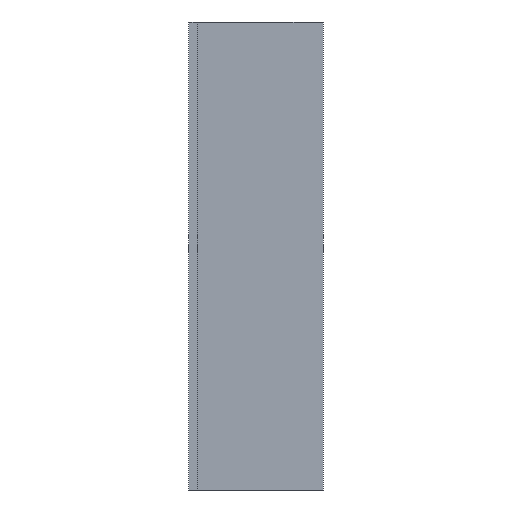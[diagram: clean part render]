
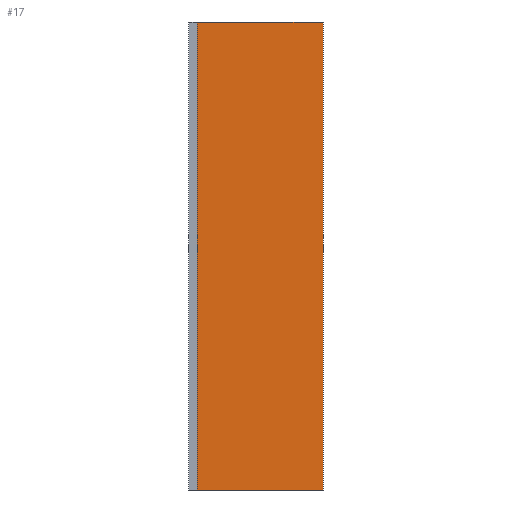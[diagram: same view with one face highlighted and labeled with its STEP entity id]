
A CAD part, left-side view. The second image highlights one B-rep face of the part: STEP entity #17.
In plain terms, the highlighted planar face has unit normal (-1, 0, 0).
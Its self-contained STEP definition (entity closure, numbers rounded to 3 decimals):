
#17 = ADVANCED_FACE('',(#18),#32,.F.);
#18 = FACE_BOUND('',#19,.F.);
#19 = EDGE_LOOP('',(#20,#55,#83,#111));
#20 = ORIENTED_EDGE('',*,*,#21,.F.);
#21 = EDGE_CURVE('',#22,#24,#26,.T.);
#22 = VERTEX_POINT('',#23);
#23 = CARTESIAN_POINT('',(70.4,2.8,86.));
#24 = VERTEX_POINT('',#25);
#25 = CARTESIAN_POINT('',(70.4,2.8,196.));
#26 = SURFACE_CURVE('',#27,(#31,#43),.PCURVE_S1.);
#27 = LINE('',#28,#29);
#28 = CARTESIAN_POINT('',(70.4,2.8,86.));
#29 = VECTOR('',#30,1.);
#30 = DIRECTION('',(0.,0.,1.));
#31 = PCURVE('',#32,#37);
#32 = PLANE('',#33);
#33 = AXIS2_PLACEMENT_3D('',#34,#35,#36);
#34 = CARTESIAN_POINT('',(70.4,2.8,86.));
#35 = DIRECTION('',(1.,0.,0.));
#36 = DIRECTION('',(0.,0.,1.));
#37 = DEFINITIONAL_REPRESENTATION('',(#38),#42);
#38 = LINE('',#39,#40);
#39 = CARTESIAN_POINT('',(0.,0.));
#40 = VECTOR('',#41,1.);
#41 = DIRECTION('',(1.,0.));
#42 = ( GEOMETRIC_REPRESENTATION_CONTEXT(2) 
PARAMETRIC_REPRESENTATION_CONTEXT() REPRESENTATION_CONTEXT('2D SPACE',''
  ) );
#43 = PCURVE('',#44,#49);
#44 = PLANE('',#45);
#45 = AXIS2_PLACEMENT_3D('',#46,#47,#48);
#46 = CARTESIAN_POINT('',(70.4,2.8,86.));
#47 = DIRECTION('',(0.,1.,0.));
#48 = DIRECTION('',(0.,0.,1.));
#49 = DEFINITIONAL_REPRESENTATION('',(#50),#54);
#50 = LINE('',#51,#52);
#51 = CARTESIAN_POINT('',(0.,0.));
#52 = VECTOR('',#53,1.);
#53 = DIRECTION('',(1.,0.));
#54 = ( GEOMETRIC_REPRESENTATION_CONTEXT(2) 
PARAMETRIC_REPRESENTATION_CONTEXT() REPRESENTATION_CONTEXT('2D SPACE',''
  ) );
#55 = ORIENTED_EDGE('',*,*,#56,.T.);
#56 = EDGE_CURVE('',#22,#57,#59,.T.);
#57 = VERTEX_POINT('',#58);
#58 = CARTESIAN_POINT('',(70.4,32.4,86.));
#59 = SURFACE_CURVE('',#60,(#64,#71),.PCURVE_S1.);
#60 = LINE('',#61,#62);
#61 = CARTESIAN_POINT('',(70.4,2.8,86.));
#62 = VECTOR('',#63,1.);
#63 = DIRECTION('',(0.,1.,0.));
#64 = PCURVE('',#32,#65);
#65 = DEFINITIONAL_REPRESENTATION('',(#66),#70);
#66 = LINE('',#67,#68);
#67 = CARTESIAN_POINT('',(0.,0.));
#68 = VECTOR('',#69,1.);
#69 = DIRECTION('',(0.,-1.));
#70 = ( GEOMETRIC_REPRESENTATION_CONTEXT(2) 
PARAMETRIC_REPRESENTATION_CONTEXT() REPRESENTATION_CONTEXT('2D SPACE',''
  ) );
#71 = PCURVE('',#72,#77);
#72 = PLANE('',#73);
#73 = AXIS2_PLACEMENT_3D('',#74,#75,#76);
#74 = CARTESIAN_POINT('',(70.4,2.8,86.));
#75 = DIRECTION('',(0.,0.,1.));
#76 = DIRECTION('',(1.,0.,0.));
#77 = DEFINITIONAL_REPRESENTATION('',(#78),#82);
#78 = LINE('',#79,#80);
#79 = CARTESIAN_POINT('',(0.,0.));
#80 = VECTOR('',#81,1.);
#81 = DIRECTION('',(0.,1.));
#82 = ( GEOMETRIC_REPRESENTATION_CONTEXT(2) 
PARAMETRIC_REPRESENTATION_CONTEXT() REPRESENTATION_CONTEXT('2D SPACE',''
  ) );
#83 = ORIENTED_EDGE('',*,*,#84,.T.);
#84 = EDGE_CURVE('',#57,#85,#87,.T.);
#85 = VERTEX_POINT('',#86);
#86 = CARTESIAN_POINT('',(70.4,32.4,196.));
#87 = SURFACE_CURVE('',#88,(#92,#99),.PCURVE_S1.);
#88 = LINE('',#89,#90);
#89 = CARTESIAN_POINT('',(70.4,32.4,86.));
#90 = VECTOR('',#91,1.);
#91 = DIRECTION('',(0.,0.,1.));
#92 = PCURVE('',#32,#93);
#93 = DEFINITIONAL_REPRESENTATION('',(#94),#98);
#94 = LINE('',#95,#96);
#95 = CARTESIAN_POINT('',(0.,-29.6));
#96 = VECTOR('',#97,1.);
#97 = DIRECTION('',(1.,0.));
#98 = ( GEOMETRIC_REPRESENTATION_CONTEXT(2) 
PARAMETRIC_REPRESENTATION_CONTEXT() REPRESENTATION_CONTEXT('2D SPACE',''
  ) );
#99 = PCURVE('',#100,#105);
#100 = PLANE('',#101);
#101 = AXIS2_PLACEMENT_3D('',#102,#103,#104);
#102 = CARTESIAN_POINT('',(68.,32.4,86.));
#103 = DIRECTION('',(0.,1.,0.));
#104 = DIRECTION('',(0.,0.,1.));
#105 = DEFINITIONAL_REPRESENTATION('',(#106),#110);
#106 = LINE('',#107,#108);
#107 = CARTESIAN_POINT('',(0.,2.4));
#108 = VECTOR('',#109,1.);
#109 = DIRECTION('',(1.,0.));
#110 = ( GEOMETRIC_REPRESENTATION_CONTEXT(2) 
PARAMETRIC_REPRESENTATION_CONTEXT() REPRESENTATION_CONTEXT('2D SPACE',''
  ) );
#111 = ORIENTED_EDGE('',*,*,#112,.F.);
#112 = EDGE_CURVE('',#24,#85,#113,.T.);
#113 = SURFACE_CURVE('',#114,(#118,#125),.PCURVE_S1.);
#114 = LINE('',#115,#116);
#115 = CARTESIAN_POINT('',(70.4,2.8,196.));
#116 = VECTOR('',#117,1.);
#117 = DIRECTION('',(0.,1.,0.));
#118 = PCURVE('',#32,#119);
#119 = DEFINITIONAL_REPRESENTATION('',(#120),#124);
#120 = LINE('',#121,#122);
#121 = CARTESIAN_POINT('',(110.,0.));
#122 = VECTOR('',#123,1.);
#123 = DIRECTION('',(0.,-1.));
#124 = ( GEOMETRIC_REPRESENTATION_CONTEXT(2) 
PARAMETRIC_REPRESENTATION_CONTEXT() REPRESENTATION_CONTEXT('2D SPACE',''
  ) );
#125 = PCURVE('',#126,#131);
#126 = PLANE('',#127);
#127 = AXIS2_PLACEMENT_3D('',#128,#129,#130);
#128 = CARTESIAN_POINT('',(70.4,2.8,196.));
#129 = DIRECTION('',(0.,0.,1.));
#130 = DIRECTION('',(1.,0.,0.));
#131 = DEFINITIONAL_REPRESENTATION('',(#132),#136);
#132 = LINE('',#133,#134);
#133 = CARTESIAN_POINT('',(0.,0.));
#134 = VECTOR('',#135,1.);
#135 = DIRECTION('',(0.,1.));
#136 = ( GEOMETRIC_REPRESENTATION_CONTEXT(2) 
PARAMETRIC_REPRESENTATION_CONTEXT() REPRESENTATION_CONTEXT('2D SPACE',''
  ) );
